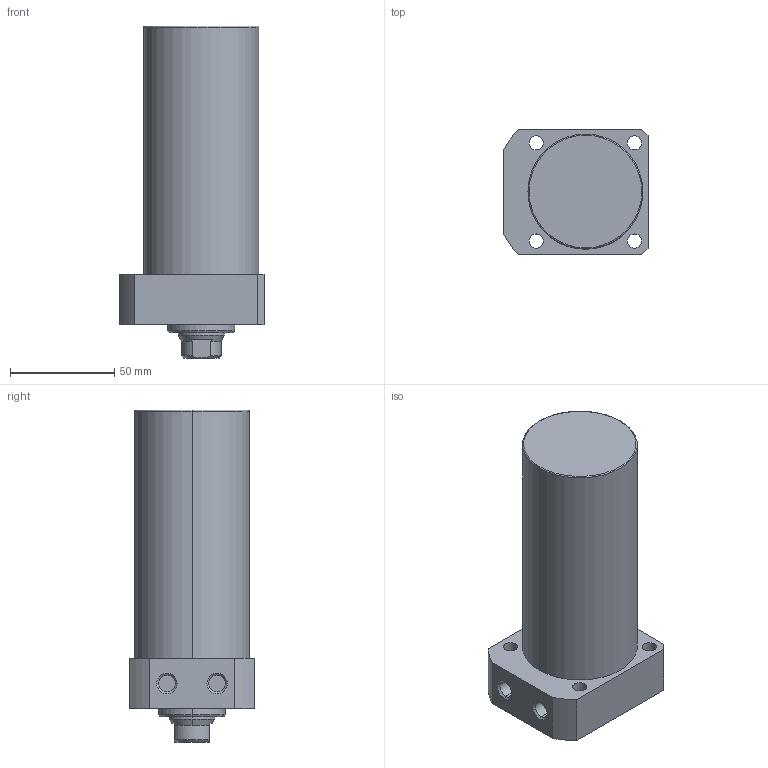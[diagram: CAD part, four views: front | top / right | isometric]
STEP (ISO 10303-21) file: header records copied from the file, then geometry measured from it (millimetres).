
FILE_DESCRIPTION (( 'STEP AP203' ), '1' );
FILE_NAME ('CLLR055-CA-090.STEP', '2017-05-16T03:39:39', ( '' ), ( '' ), 'SwSTEP 2.0', 'SolidWorks 2015', '' );
FILE_SCHEMA (( 'CONFIG_CONTROL_DESIGN' ));
Length unit declared in the file: millimetre
Products named in the file (1): CLLR055-CA-090
Bounding box: 69 x 60 x 159 mm (x, y, z)
Volume: 380351.2 mm3; surface area: 38848.7 mm2
Topology: 1 solids, 1 shells, 65 faces, 150 edges, 93 vertices
Faces by surface type: cylinder 29, plane 19, cone 15, torus 2
Entity records: 1959 total; most frequent: DIRECTION 348, CARTESIAN_POINT 347, ORIENTED_EDGE 296, EDGE_CURVE 148, AXIS2_PLACEMENT_3D 142, VERTEX_POINT 93, EDGE_LOOP 81, CIRCLE 76
